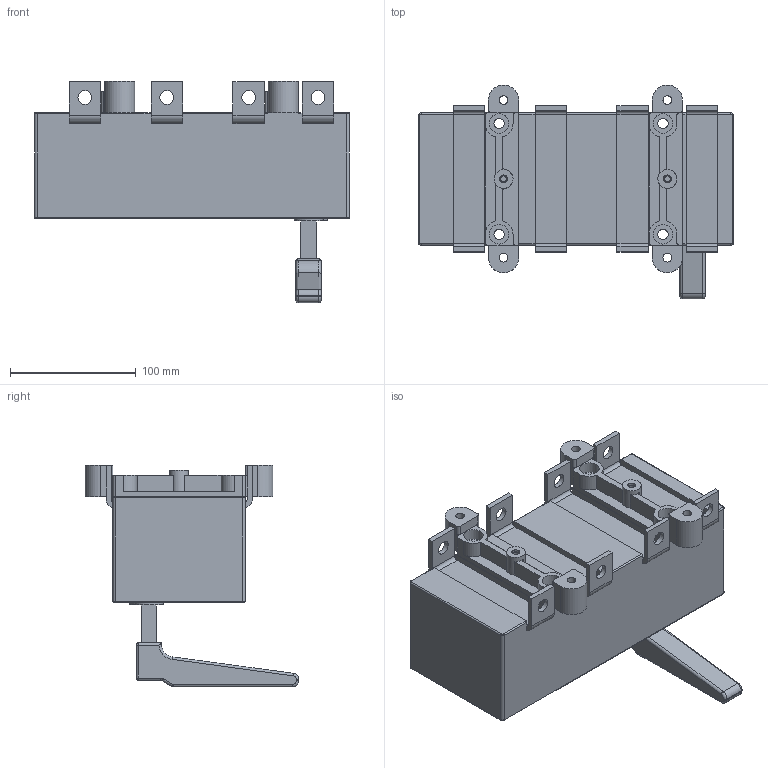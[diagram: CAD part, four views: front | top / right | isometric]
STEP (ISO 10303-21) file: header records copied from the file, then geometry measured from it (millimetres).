
FILE_DESCRIPTION(/* description */ (''),/* implementation_level */ '2;1');
FILE_NAME(/* name */ 'RA400 P3 NC-R.stp',/* time_stamp */ '2021-08-18T14:29:27+02:00',/* author */ (''),/* organization */ (''),/* preprocessor_version */ 'ST-DEVELOPER v18.1',/* originating_system */ 'SIEMENS PLM Software NX 1965',/* authorisation */ '');
FILE_SCHEMA (('TECHNICAL_DATA_PACKAGING'));
Length unit declared in the file: millimetre
Products named in the file (1): RA400 P3 NC-R_stp
Bounding box: 250 x 169.5 x 176 mm (x, y, z)
Volume: 2292569 mm3; surface area: 174845.7 mm2
Topology: 1 solids, 1 shells, 286 faces, 743 edges, 468 vertices
Faces by surface type: plane 137, cylinder 127, torus 13, sphere 6, bspline 3
Full cylindrical faces by diameter (mm): 4.8 x2, 6.2 x2, 7 x4, 8.2 x4, 11 x8, 14 x4, 15 x2, 15.5 x4
Entity records: 8670 total; most frequent: DIRECTION 1557, CARTESIAN_POINT 1531, ORIENTED_EDGE 1406, EDGE_CURVE 703, AXIS2_PLACEMENT_3D 574, VERTEX_POINT 464, LINE 409, VECTOR 409
